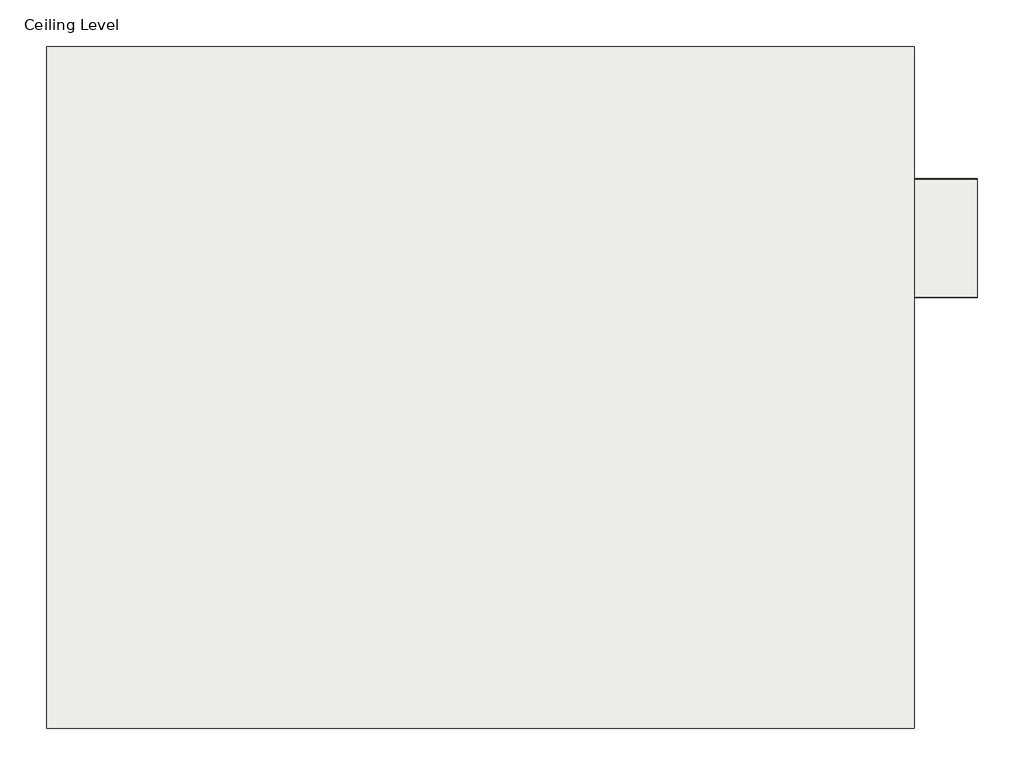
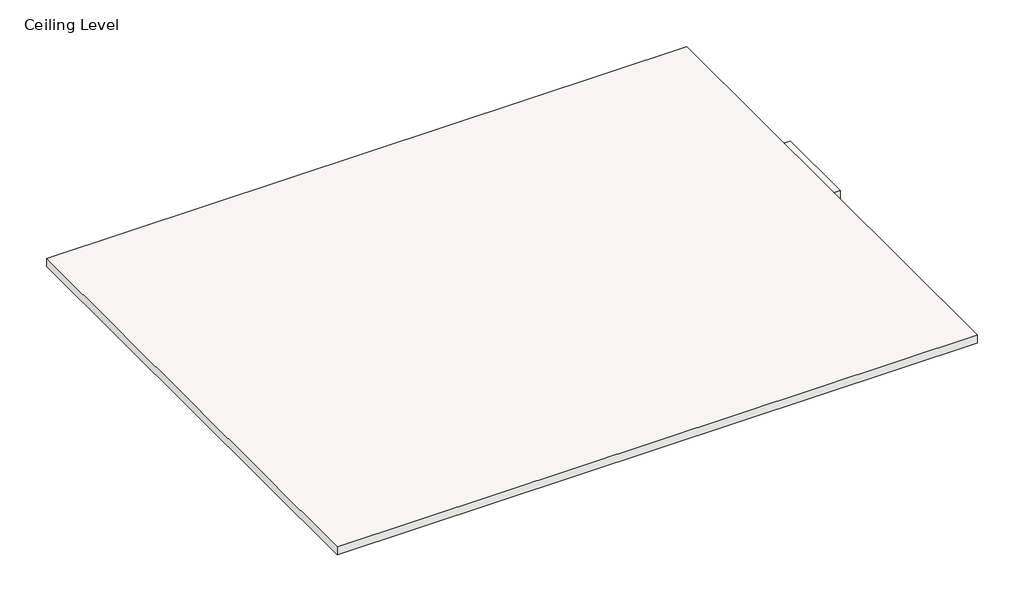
# One storey: 5 coverings.
"""IFC4 building model written with IfcOpenShell, lengths in millimetres."""

from ifc_helpers import new_model, si_unit, frame, origin, place, context, project, spatial, polyline, outline, extrude, element, save

model = new_model("IFC4")

# Units and contexts
model_context = context("Model", 3, world=origin())
ifc_project = project(units=[si_unit("LENGTHUNIT", "METRE", prefix="MILLI")], contexts=[model_context])

# Site, building, storey
site = spatial("IfcSite", under=ifc_project)
building = spatial("IfcBuilding", under=site)
storey = spatial("IfcBuildingStorey", under=building, Name="Ceiling Level", Elevation=0.0)

# Coverings
placement = place(None, origin())
element("IfcCovering", 1, ObjectType="Rockfon Blanka dB 46 A24 (white) 600 x 600 x 50 mm", at=placement, inside=storey, context=model_context, shape_type="SweptSolid", body=[
    extrude(outline(polyline([(-7000.9781072, 8795.7122432), (-7000.9781072, 5895.7122432), (-10690.9781072, 5895.7122432), (-10690.9781072, 8795.7122432), (-7000.9781072, 8795.7122432)])), frame((0.0, 0.0, 1.0), z_axis=(0.0, 0.0, 1.0), x_axis=(1.0, 0.0, 0.0)), (0.0, 0.0, 1.0), 50.0),
])
element("IfcCovering", 2, ObjectType="Rockfon Blanka dB 46 E24 (white) 600 x 600 x 50 mm", at=placement, inside=storey, context=model_context, shape_type="SweptSolid", body=[
    extrude(outline(polyline([(-6733.0033126, 8227.2505738), (-6733.0033126, 7727.2505738), (-7133.0033126, 7727.2505738), (-7133.0033126, 8227.2505738), (-6733.0033126, 8227.2505738)])), frame((0.0, 0.0, -811.7974827), z_axis=(0.0, 0.0, 1.0), x_axis=(1.0, 0.0, 0.0)), (0.0, 0.0, 1.0), 50.0),
])
element("IfcCovering", 3, ObjectType="Rockfon Blanka dB 46 E15 (white) 600 x 600 x 50 mm", at=placement, inside=storey, context=model_context, shape_type="SweptSolid", body=[
    extrude(outline(polyline([(-6733.0033126, 8230.1232506), (-6733.0033126, 7730.1232506), (-7133.0033126, 7730.1232506), (-7133.0033126, 8230.1232506), (-6733.0033126, 8230.1232506)])), frame((0.0, 0.0, -640.5782246), z_axis=(0.0, 0.0, 1.0), x_axis=(1.0, 0.0, 0.0)), (0.0, 0.0, 1.0), 50.0),
])
element("IfcCovering", 4, ObjectType="Rockfon Blanka dB 46 A24 (white) 600 x 600 x 50 mm", at=placement, inside=storey, context=model_context, shape_type="SweptSolid", body=[
    extrude(outline(polyline([(-6733.0033126, 8230.0529845), (-6733.0033126, 7730.0529845), (-7133.0033126, 7730.0529845), (-7133.0033126, 8230.0529845), (-6733.0033126, 8230.0529845)])), frame((0.0, 0.0, -325.8543236), z_axis=(0.0, 0.0, 1.0), x_axis=(1.0, 0.0, 0.0)), (0.0, 0.0, 1.0), 50.0),
])
element("IfcCovering", 5, ObjectType="Rockfon Blanka dB 46 D (white) 600 x 600 x 50 mm", at=placement, inside=storey, context=model_context, shape_type="SweptSolid", body=[
    extrude(outline(polyline([(-6733.0033126, 8233.2225272), (-6733.0033126, 7733.2225272), (-7133.0033126, 7733.2225272), (-7133.0033126, 8233.2225272), (-6733.0033126, 8233.2225272)])), frame((0.0, 0.0, -477.035939), z_axis=(0.0, 0.0, 1.0), x_axis=(1.0, 0.0, 0.0)), (0.0, 0.0, 1.0), 50.0),
])

save(model, "model.ifc")
